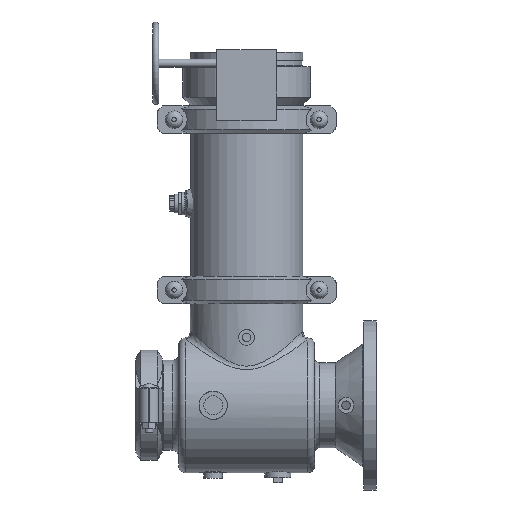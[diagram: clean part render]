
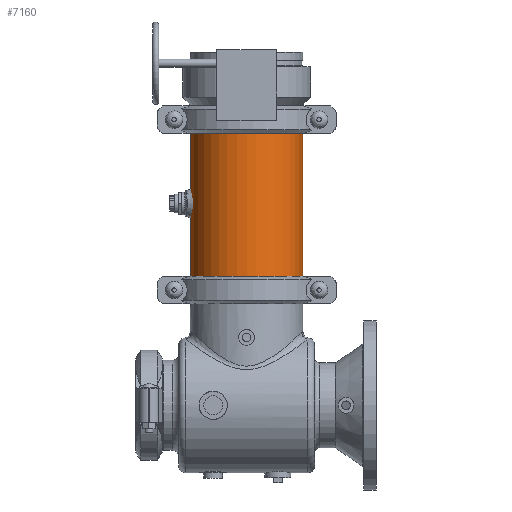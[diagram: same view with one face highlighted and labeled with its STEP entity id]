
A CAD part, top view. The second image highlights one B-rep face of the part: STEP entity #7160.
In plain terms, the highlighted cylindrical face has radius 136.525 mm (diameter 273.05 mm), a full revolution.
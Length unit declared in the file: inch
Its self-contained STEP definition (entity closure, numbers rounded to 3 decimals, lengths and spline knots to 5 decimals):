
#707=FACE_OUTER_BOUND('',#1168,.T.);
#1168=EDGE_LOOP('',(#5418,#5419,#5420,#5421,#5422,#5423));
#1645=CIRCLE('',#7974,5.375);
#1646=CIRCLE('',#7975,5.375);
#1647=CIRCLE('',#7977,5.375);
#1648=CIRCLE('',#7978,5.375);
#2068=LINE('',#12740,#2534);
#2534=VECTOR('',#9463,5.375);
#3123=VERTEX_POINT('',#12731);
#3124=VERTEX_POINT('',#12732);
#3125=VERTEX_POINT('',#12736);
#3126=VERTEX_POINT('',#12737);
#3948=EDGE_CURVE('',#3123,#3124,#1645,.T.);
#3949=EDGE_CURVE('',#3124,#3123,#1646,.T.);
#3950=EDGE_CURVE('',#3125,#3126,#1647,.T.);
#3951=EDGE_CURVE('',#3126,#3125,#1648,.T.);
#3952=EDGE_CURVE('',#3126,#3124,#2068,.T.);
#5418=ORIENTED_EDGE('',*,*,#3950,.F.);
#5419=ORIENTED_EDGE('',*,*,#3951,.F.);
#5420=ORIENTED_EDGE('',*,*,#3952,.T.);
#5421=ORIENTED_EDGE('',*,*,#3949,.T.);
#5422=ORIENTED_EDGE('',*,*,#3948,.T.);
#5423=ORIENTED_EDGE('',*,*,#3952,.F.);
#6509=CYLINDRICAL_SURFACE('',#7976,5.375);
#7160=ADVANCED_FACE('',(#707),#6509,.T.);
#7974=AXIS2_PLACEMENT_3D('',#12733,#9453,#9454);
#7975=AXIS2_PLACEMENT_3D('',#12734,#9455,#9456);
#7976=AXIS2_PLACEMENT_3D('',#12735,#9457,#9458);
#7977=AXIS2_PLACEMENT_3D('',#12738,#9459,#9460);
#7978=AXIS2_PLACEMENT_3D('',#12739,#9461,#9462);
#9453=DIRECTION('center_axis',(0.,-1.,0.));
#9454=DIRECTION('ref_axis',(1.,0.,0.));
#9455=DIRECTION('center_axis',(0.,-1.,0.));
#9456=DIRECTION('ref_axis',(1.,0.,0.));
#9457=DIRECTION('center_axis',(0.,-1.,0.));
#9458=DIRECTION('ref_axis',(1.,0.,0.));
#9459=DIRECTION('center_axis',(0.,-1.,0.));
#9460=DIRECTION('ref_axis',(1.,0.,0.));
#9461=DIRECTION('center_axis',(0.,-1.,0.));
#9462=DIRECTION('ref_axis',(1.,0.,0.));
#9463=DIRECTION('',(0.,1.,0.));
#12731=CARTESIAN_POINT('',(5.375,6.875,0.));
#12732=CARTESIAN_POINT('',(-5.375,6.875,0.));
#12733=CARTESIAN_POINT('Origin',(0.,6.875,0.));
#12734=CARTESIAN_POINT('Origin',(0.,6.875,0.));
#12735=CARTESIAN_POINT('Origin',(0.,0.,
0.));
#12736=CARTESIAN_POINT('',(5.375,-6.875,0.));
#12737=CARTESIAN_POINT('',(-5.375,-6.875,0.));
#12738=CARTESIAN_POINT('Origin',(0.,-6.875,0.));
#12739=CARTESIAN_POINT('Origin',(0.,-6.875,0.));
#12740=CARTESIAN_POINT('',(-5.375,0.,0.));
